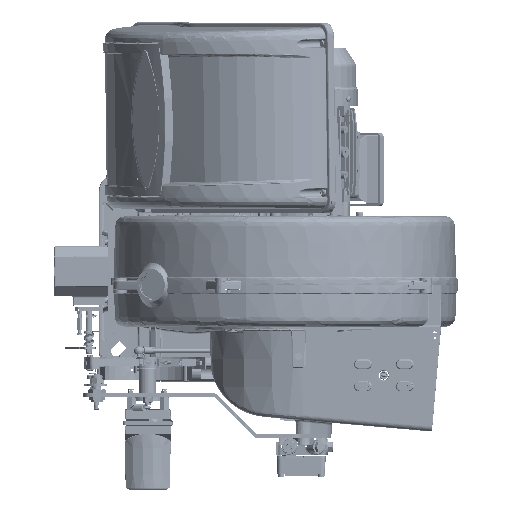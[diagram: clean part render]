
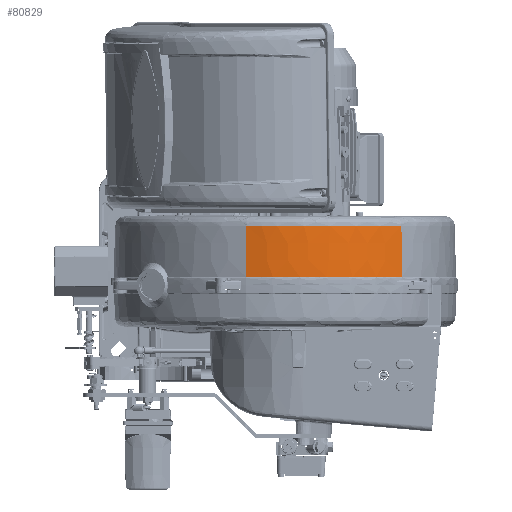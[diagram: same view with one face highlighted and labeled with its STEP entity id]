
A CAD part, left-side view. The second image highlights one B-rep face of the part: STEP entity #80829.
In plain terms, the highlighted free-form (B-spline) face has degree [3, 3] with [11, 4] control points.
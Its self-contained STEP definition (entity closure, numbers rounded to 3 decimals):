
#665 = CARTESIAN_POINT ( 'NONE',  ( -180.441, -140.942, 85.253 ) ) ;
#5370 = CARTESIAN_POINT ( 'NONE',  ( -187.291, -133.718, 60.83 ) ) ;
#30555 = CARTESIAN_POINT ( 'NONE',  ( -238.603, 72.617, 11.983 ) ) ;
#31045 = CARTESIAN_POINT ( 'NONE',  ( -241.266, 52.812, 60.83 ) ) ;
#34673 = EDGE_LOOP ( 'NONE', ( #308269, #101288, #381923, #316312 ) ) ;
#37312 = CARTESIAN_POINT ( 'NONE',  ( -186.958, -133.451, 85.253 ) ) ;
#38513 = CARTESIAN_POINT ( 'NONE',  ( -180.449, -140.932, 85.253 ) ) ;
#39420 = EDGE_CURVE ( 'NONE', #344493, #84263, #103092, .T. ) ;
#42078 = CARTESIAN_POINT ( 'NONE',  ( -227.338, -65.05, 36.406 ) ) ;
#43648 = CARTESIAN_POINT ( 'NONE',  ( -180.762, -141.222, 60.83 ) ) ;
#58308 = B_SPLINE_SURFACE_WITH_KNOTS ( 'NONE', 3, 3, ( 
 ( #211206, #176022, #179194, #361290 ),
 ( #247958, #252678, #66163, #358117 ),
 ( #431597, #249535, #31045, #286253 ),
 ( #322928, #367558, #370706, #333949 ),
 ( #72430, #148862, #402698, #182378 ),
 ( #437854, #401101, #145714, #78765 ),
 ( #183924, #42078, #327657, #75592 ),
 ( #218987, #187065, #297186, #113758 ),
 ( #262127, #151996, #364457, #185472 ),
 ( #115343, #444176, #5370, #37312 ),
 ( #404266, #110633, #43648, #665 ) ),
 .UNSPECIFIED., .F., .F., .F.,
 ( 4, 1, 1, 1, 1, 1, 1, 1, 4 ),
 ( 4, 4 ),
 ( 0., 29.865, 59.729, 89.594, 119.459, 149.323, 179.188, 209.053, 238.917 ),
 ( 0., 73.282 ),
 .UNSPECIFIED. ) ;
#66163 = CARTESIAN_POINT ( 'NONE',  ( -237.766, 72.451, 60.83 ) ) ;
#70000 = CARTESIAN_POINT ( 'NONE',  ( -242.552, 22.956, 85.253 ) ) ;
#72154 = CARTESIAN_POINT ( 'NONE',  ( -235.447, 82.103, 60.83 ) ) ;
#72430 = CARTESIAN_POINT ( 'NONE',  ( -241.986, -7.002, 11.983 ) ) ;
#75321 = CARTESIAN_POINT ( 'NONE',  ( -236.271, 82.321, 11.983 ) ) ;
#75592 = CARTESIAN_POINT ( 'NONE',  ( -226.538, -64.749, 85.253 ) ) ;
#78765 = CARTESIAN_POINT ( 'NONE',  ( -235.35, -36.221, 85.253 ) ) ;
#80829 = ADVANCED_FACE ( 'NONE', ( #153295 ), #58308, .T. ) ;
#84263 = VERTEX_POINT ( 'NONE', #338461 ) ;
#86850 = B_SPLINE_CURVE_WITH_KNOTS ( 'NONE', 3,
 ( #106641, #397077, #323638, #103533, #143307, #286960, #393948, #70000, #251831, #437022, #105070 ),
 .UNSPECIFIED., .F., .F.,
 ( 4, 1, 1, 1, 1, 1, 1, 1, 4 ),
 ( 0., 0.125, 0.25, 0.375, 0.5, 0.625, 0.75, 0.875, 1. ),
 .UNSPECIFIED. ) ;
#101288 = ORIENTED_EDGE ( 'NONE', *, *, #175564, .T. ) ;
#103092 = B_SPLINE_CURVE_WITH_KNOTS ( 'NONE', 3,
 ( #215595, #72154, #293796, #75321 ),
 .UNSPECIFIED., .F., .F.,
 ( 4, 4 ),
 ( 0., 1. ),
 .UNSPECIFIED. ) ;
#103533 = CARTESIAN_POINT ( 'NONE',  ( -214.401, -92.031, 85.253 ) ) ;
#105070 = CARTESIAN_POINT ( 'NONE',  ( -235.035, 81.994, 85.253 ) ) ;
#106102 = VERTEX_POINT ( 'NONE', #374989 ) ;
#106641 = CARTESIAN_POINT ( 'NONE',  ( -180.449, -140.932, 85.253 ) ) ;
#110633 = CARTESIAN_POINT ( 'NONE',  ( -181.084, -141.501, 36.406 ) ) ;
#113758 = CARTESIAN_POINT ( 'NONE',  ( -214.401, -92.031, 85.253 ) ) ;
#115343 = CARTESIAN_POINT ( 'NONE',  ( -187.956, -134.252, 11.983 ) ) ;
#137424 = CARTESIAN_POINT ( 'NONE',  ( -241.986, -7.002, 11.983 ) ) ;
#143307 = CARTESIAN_POINT ( 'NONE',  ( -226.538, -64.749, 85.253 ) ) ;
#145714 = CARTESIAN_POINT ( 'NONE',  ( -235.765, -36.322, 60.83 ) ) ;
#148862 = CARTESIAN_POINT ( 'NONE',  ( -241.562, -6.951, 36.406 ) ) ;
#151996 = CARTESIAN_POINT ( 'NONE',  ( -199.821, -118.157, 36.406 ) ) ;
#153295 = FACE_OUTER_BOUND ( 'NONE', #34673, .T. ) ;
#154448 = CARTESIAN_POINT ( 'NONE',  ( -181.406, -141.781, 11.983 ) ) ;
#175564 = EDGE_CURVE ( 'NONE', #106102, #344493, #86850, .T. ) ;
#176022 = CARTESIAN_POINT ( 'NONE',  ( -235.857, 82.222, 36.406 ) ) ;
#179194 = CARTESIAN_POINT ( 'NONE',  ( -235.442, 82.122, 60.83 ) ) ;
#182378 = CARTESIAN_POINT ( 'NONE',  ( -240.714, -6.848, 85.253 ) ) ;
#183924 = CARTESIAN_POINT ( 'NONE',  ( -227.738, -65.2, 11.983 ) ) ;
#185472 = CARTESIAN_POINT ( 'NONE',  ( -199.114, -117.677, 85.253 ) ) ;
#186641 = CARTESIAN_POINT ( 'NONE',  ( -180.768, -141.215, 60.83 ) ) ;
#187065 = CARTESIAN_POINT ( 'NONE',  ( -215.16, -92.425, 36.406 ) ) ;
#189804 = CARTESIAN_POINT ( 'NONE',  ( -181.087, -141.498, 36.406 ) ) ;
#198147 = EDGE_CURVE ( 'NONE', #84263, #355357, #201807, .T. ) ;
#201807 = B_SPLINE_CURVE_WITH_KNOTS ( 'NONE', 3,
 ( #252204, #30555, #213826, #427945, #137424, #247473, #209146, #469351, #464645, #245906, #357619 ),
 .UNSPECIFIED., .F., .F.,
 ( 4, 1, 1, 1, 1, 1, 1, 1, 4 ),
 ( 0., 0.125, 0.25, 0.375, 0.5, 0.625, 0.75, 0.875, 1. ),
 .UNSPECIFIED. ) ;
#209146 = CARTESIAN_POINT ( 'NONE',  ( -227.738, -65.2, 11.983 ) ) ;
#211206 = CARTESIAN_POINT ( 'NONE',  ( -236.271, 82.321, 11.983 ) ) ;
#213826 = CARTESIAN_POINT ( 'NONE',  ( -242.115, 52.912, 11.983 ) ) ;
#215595 = CARTESIAN_POINT ( 'NONE',  ( -235.035, 81.994, 85.253 ) ) ;
#218987 = CARTESIAN_POINT ( 'NONE',  ( -215.539, -92.621, 11.983 ) ) ;
#220139 = CARTESIAN_POINT ( 'NONE',  ( -181.406, -141.781, 11.983 ) ) ;
#225439 = B_SPLINE_CURVE_WITH_KNOTS ( 'NONE', 3,
 ( #38513, #186641, #189804, #220139 ),
 .UNSPECIFIED., .F., .F.,
 ( 4, 4 ),
 ( 0., 1. ),
 .UNSPECIFIED. ) ;
#245906 = CARTESIAN_POINT ( 'NONE',  ( -187.956, -134.252, 11.983 ) ) ;
#247473 = CARTESIAN_POINT ( 'NONE',  ( -236.595, -36.525, 11.983 ) ) ;
#247958 = CARTESIAN_POINT ( 'NONE',  ( -238.603, 72.617, 11.983 ) ) ;
#249535 = CARTESIAN_POINT ( 'NONE',  ( -241.691, 52.862, 36.406 ) ) ;
#251831 = CARTESIAN_POINT ( 'NONE',  ( -240.842, 52.753, 85.253 ) ) ;
#252204 = CARTESIAN_POINT ( 'NONE',  ( -236.271, 82.321, 11.983 ) ) ;
#252678 = CARTESIAN_POINT ( 'NONE',  ( -238.185, 72.534, 36.406 ) ) ;
#262127 = CARTESIAN_POINT ( 'NONE',  ( -200.174, -118.397, 11.983 ) ) ;
#286253 = CARTESIAN_POINT ( 'NONE',  ( -240.842, 52.762, 85.253 ) ) ;
#286960 = CARTESIAN_POINT ( 'NONE',  ( -235.35, -36.221, 85.253 ) ) ;
#293796 = CARTESIAN_POINT ( 'NONE',  ( -235.859, 82.212, 36.406 ) ) ;
#297186 = CARTESIAN_POINT ( 'NONE',  ( -214.78, -92.228, 60.83 ) ) ;
#308269 = ORIENTED_EDGE ( 'NONE', *, *, #348992, .F. ) ;
#316312 = ORIENTED_EDGE ( 'NONE', *, *, #198147, .T. ) ;
#322928 = CARTESIAN_POINT ( 'NONE',  ( -243.834, 22.953, 11.983 ) ) ;
#323638 = CARTESIAN_POINT ( 'NONE',  ( -199.116, -117.673, 85.253 ) ) ;
#327657 = CARTESIAN_POINT ( 'NONE',  ( -226.938, -64.9, 60.83 ) ) ;
#328493 = CARTESIAN_POINT ( 'NONE',  ( -235.035, 81.994, 85.253 ) ) ;
#333949 = CARTESIAN_POINT ( 'NONE',  ( -242.552, 22.956, 85.253 ) ) ;
#338461 = CARTESIAN_POINT ( 'NONE',  ( -236.271, 82.321, 11.983 ) ) ;
#344493 = VERTEX_POINT ( 'NONE', #328493 ) ;
#348992 = EDGE_CURVE ( 'NONE', #106102, #355357, #225439, .T. ) ;
#355357 = VERTEX_POINT ( 'NONE', #154448 ) ;
#357619 = CARTESIAN_POINT ( 'NONE',  ( -181.406, -141.781, 11.983 ) ) ;
#358117 = CARTESIAN_POINT ( 'NONE',  ( -237.348, 72.368, 85.253 ) ) ;
#361290 = CARTESIAN_POINT ( 'NONE',  ( -235.028, 82.023, 85.253 ) ) ;
#364457 = CARTESIAN_POINT ( 'NONE',  ( -199.467, -117.917, 60.83 ) ) ;
#367558 = CARTESIAN_POINT ( 'NONE',  ( -243.407, 22.954, 36.406 ) ) ;
#370706 = CARTESIAN_POINT ( 'NONE',  ( -242.98, 22.955, 60.83 ) ) ;
#374989 = CARTESIAN_POINT ( 'NONE',  ( -180.449, -140.932, 85.253 ) ) ;
#381923 = ORIENTED_EDGE ( 'NONE', *, *, #39420, .T. ) ;
#393948 = CARTESIAN_POINT ( 'NONE',  ( -240.714, -6.848, 85.253 ) ) ;
#397077 = CARTESIAN_POINT ( 'NONE',  ( -186.963, -133.444, 85.253 ) ) ;
#401101 = CARTESIAN_POINT ( 'NONE',  ( -236.18, -36.424, 36.406 ) ) ;
#402698 = CARTESIAN_POINT ( 'NONE',  ( -241.138, -6.899, 60.83 ) ) ;
#404266 = CARTESIAN_POINT ( 'NONE',  ( -181.405, -141.781, 11.983 ) ) ;
#427945 = CARTESIAN_POINT ( 'NONE',  ( -243.834, 22.953, 11.983 ) ) ;
#431597 = CARTESIAN_POINT ( 'NONE',  ( -242.115, 52.912, 11.983 ) ) ;
#437022 = CARTESIAN_POINT ( 'NONE',  ( -237.351, 72.349, 85.253 ) ) ;
#437854 = CARTESIAN_POINT ( 'NONE',  ( -236.595, -36.525, 11.983 ) ) ;
#444176 = CARTESIAN_POINT ( 'NONE',  ( -187.624, -133.985, 36.406 ) ) ;
#464645 = CARTESIAN_POINT ( 'NONE',  ( -200.174, -118.397, 11.983 ) ) ;
#469351 = CARTESIAN_POINT ( 'NONE',  ( -215.539, -92.621, 11.983 ) ) ;
